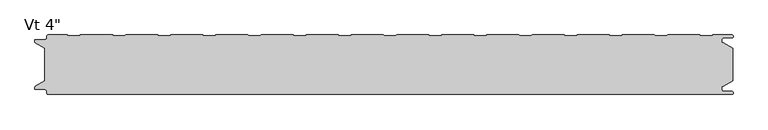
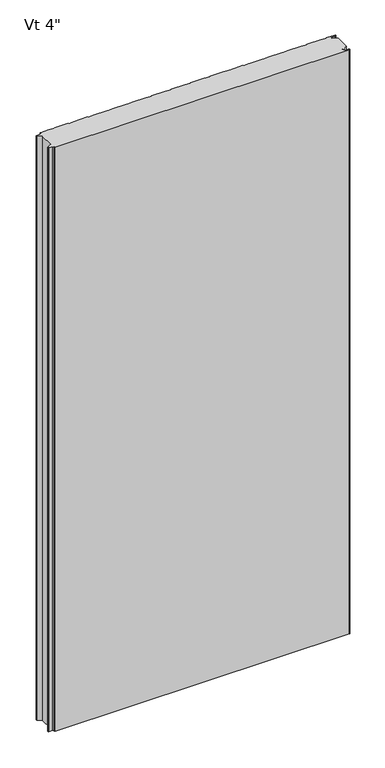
"""IFC4 building model written with IfcOpenShell, lengths in millimetres: plate geometry."""

from ifc_helpers import new_model, si_unit, frame, origin, place, context, project, spatial, polyline, circle_curve, source, transform, mapped, element, save
from ifc_brep_helpers import plane_surface, cylinder_surface, revolved_surface, advanced_brep


def plate_5dd1f924(model_context):
    return source(origin(), model_context, "Body", "AdvancedBrep", [
        advanced_brep(
        [(-572.4125501, -98.6227194, 2400.0), (-570.4352761, -100.5999935, 2400.0), (574.5475652, -100.6, 2400.0), (576.5248337, -98.6227315, 2400.0), (576.5248337, -97.5806329, 2400.0), (574.5475652, -95.6033643, 2400.0), (560.3591802, -95.6033643, 2400.0), (557.7713036, -93.0154878, 2400.0), (557.7713036, -88.6950697, 2400.0), (557.1628365, -88.1060762, 2400.0), (554.7857432, -88.1060762, 2400.0), (554.7857432, -87.1066023, 2400.0), (560.2280123, -87.1066023, 2400.0), (576.2625, -77.8490865, 2400.0), (576.2625, -23.7509179, 2400.0), (560.2280123, -14.4934021, 2400.0), (554.7857432, -14.4934021, 2400.0), (554.7857432, -13.4939282, 2400.0), (557.1628365, -13.4939282, 2400.0), (557.7713036, -12.9049347, 2400.0), (557.7713036, -8.5845165, 2400.0), (560.3591802, -5.99664, 2400.0), (574.5475652, -5.99664, 2400.0), (576.5248337, -4.0193715, 2400.0), (576.5248337, -2.9772729, 2400.0), (574.5475652, -1.0000044, 2400.0), (542.3760351, -1.0000044, 2400.0), (541.3035142, -2.1911595, 2400.0), (521.5205195, -2.1911595, 2400.0), (520.4479947, -1.0, 2400.0), (466.7534187, -1.0, 2400.0), (465.6808939, -2.1911595, 2400.0), (445.8978992, -2.1911595, 2400.0), (444.8253744, -1.0, 2400.0), (391.1307985, -1.0, 2400.0), (390.0582736, -2.1911595, 2400.0), (370.275279, -2.1911595, 2400.0), (369.2027541, -1.0, 2400.0), (315.5081782, -1.0, 2400.0), (314.4356534, -2.1911595, 2400.0), (294.6526587, -2.1911595, 2400.0), (293.5801339, -1.0, 2400.0), (239.885558, -1.0, 2400.0), (238.8130331, -2.1911595, 2400.0), (219.0300384, -2.1911595, 2400.0), (217.9575136, -1.0, 2400.0), (164.2629377, -1.0, 2400.0), (163.1904129, -2.1911595, 2400.0), (143.4074182, -2.1911595, 2400.0), (142.3348933, -1.0, 2400.0), (88.6403174, -1.0, 2400.0), (87.5677926, -2.1911595, 2400.0), (67.7847979, -2.1911595, 2400.0), (66.7122731, -1.0, 2400.0), (13.0176972, -1.0, 2400.0), (11.9451723, -2.1911595, 2400.0), (-7.8378224, -2.1911595, 2400.0), (-8.9103472, -1.0, 2400.0), (-62.6049231, -1.0, 2400.0), (-63.6774479, -2.1911595, 2400.0), (-83.4604426, -2.1911595, 2400.0), (-84.5329675, -1.0, 2400.0), (-138.2275434, -1.0, 2400.0), (-139.3000682, -2.1911595, 2400.0), (-159.0830629, -2.1911595, 2400.0), (-160.1555877, -1.0, 2400.0), (-213.8501636, -1.0, 2400.0), (-214.9226885, -2.1911595, 2400.0), (-234.7056831, -2.1911595, 2400.0), (-235.778208, -1.0, 2400.0), (-289.4727839, -1.0, 2400.0), (-290.5453087, -2.1911595, 2400.0), (-310.3283034, -2.1911595, 2400.0), (-311.4008282, -1.0, 2400.0), (-365.0954042, -1.0, 2400.0), (-366.167929, -2.1911595, 2400.0), (-385.9509237, -2.1911595, 2400.0), (-387.0234485, -1.0, 2400.0), (-440.7180244, -1.0, 2400.0), (-441.7905493, -2.1911595, 2400.0), (-461.5735439, -2.1911595, 2400.0), (-462.6460688, -1.0, 2400.0), (-516.3406447, -1.0, 2400.0), (-517.4131695, -2.1911595, 2400.0), (-537.1961642, -2.1911595, 2400.0), (-538.268689, -1.0000109, 2400.0), (-570.4352761, -1.0000109, 2400.0), (-572.4125501, -2.9772849, 2400.0), (-572.4125501, -5.2691749, 2400.0), (-576.3898173, -9.246442, 2400.0), (-591.9862417, -9.246442, 2400.0), (-592.5741186, -9.8343189, 2400.0), (-592.5741186, -12.9058679, 2400.0), (-591.986242, -13.4937446, 2400.0), (-589.6312064, -13.4937446, 2400.0), (-589.6312064, -14.4937446, 2400.0), (-591.9207851, -14.4937446, 2400.0), (-576.2625, -23.7509179, 2400.0), (-576.2625, -77.8490865, 2400.0), (-591.9207851, -87.1062598, 2400.0), (-589.6312064, -87.1062598, 2400.0), (-589.6312064, -88.1062598, 2400.0), (-591.986242, -88.1062598, 2400.0), (-592.5741186, -88.6941365, 2400.0), (-592.5741186, -91.7656854, 2400.0), (-591.9862417, -92.3535623, 2400.0), (-576.3898173, -92.3535623, 2400.0), (-572.4125501, -96.3308295, 2400.0), (-572.4125501, -98.6227194, 0.0), (-572.4125501, -96.3308295, 0.0), (-576.3898173, -92.3535623, 0.0), (-591.9862417, -92.3535623, 0.0), (-592.5741186, -91.7656854, 0.0), (-592.5741186, -88.6941365, 0.0), (-591.986242, -88.1062598, 0.0), (-589.6312064, -88.1062598, 0.0), (-589.6312064, -87.1062598, 0.0), (-591.9207851, -87.1062598, 0.0), (-576.2625, -77.8490865, 0.0), (-576.2625, -23.7509179, 0.0), (-591.9207851, -14.4937446, 0.0), (-589.6312064, -14.4937446, 0.0), (-589.6312064, -13.4937446, 0.0), (-591.986242, -13.4937446, 0.0), (-592.5741186, -12.9058679, 0.0), (-592.5741186, -9.8343189, 0.0), (-591.9862417, -9.246442, 0.0), (-576.3898173, -9.246442, 0.0), (-572.4125501, -5.2691749, 0.0), (-572.4125501, -2.9772849, 0.0), (-570.4352761, -1.0000109, 0.0), (-538.268689, -1.0000109, 0.0), (-537.1961642, -2.1911595, 0.0), (-517.4131695, -2.1911595, 0.0), (-516.3406447, -1.0, 0.0), (-462.6460688, -1.0, 0.0), (-461.5735439, -2.1911595, 0.0), (-441.7905493, -2.1911595, 0.0), (-440.7180244, -1.0, 0.0), (-387.0234485, -1.0, 0.0), (-385.9509237, -2.1911595, 0.0), (-366.167929, -2.1911595, 0.0), (-365.0954042, -1.0, 0.0), (-311.4008282, -1.0, 0.0), (-310.3283034, -2.1911595, 0.0), (-290.5453087, -2.1911595, 0.0), (-289.4727839, -1.0, 0.0), (-235.778208, -1.0, 0.0), (-234.7056831, -2.1911595, 0.0), (-214.9226885, -2.1911595, 0.0), (-213.8501636, -1.0, 0.0), (-160.1555877, -1.0, 0.0), (-159.0830629, -2.1911595, 0.0), (-139.3000682, -2.1911595, 0.0), (-138.2275434, -1.0, 0.0), (-84.5329675, -1.0, 0.0), (-83.4604426, -2.1911595, 0.0), (-63.6774479, -2.1911595, 0.0), (-62.6049231, -1.0, 0.0), (-8.9103472, -1.0, 0.0), (-7.8378224, -2.1911595, 0.0), (11.9451723, -2.1911595, 0.0), (13.0176972, -1.0, 0.0), (66.7122731, -1.0, 0.0), (67.7847979, -2.1911595, 0.0), (87.5677926, -2.1911595, 0.0), (88.6403174, -1.0, 0.0), (142.3348933, -1.0, 0.0), (143.4074182, -2.1911595, 0.0), (163.1904129, -2.1911595, 0.0), (164.2629377, -1.0, 0.0), (217.9575136, -1.0, 0.0), (219.0300384, -2.1911595, 0.0), (238.8130331, -2.1911595, 0.0), (239.885558, -1.0, 0.0), (293.5801339, -1.0, 0.0), (294.6526587, -2.1911595, 0.0), (314.4356534, -2.1911595, 0.0), (315.5081782, -1.0, 0.0), (369.2027541, -1.0, 0.0), (370.275279, -2.1911595, 0.0), (390.0582736, -2.1911595, 0.0), (391.1307985, -1.0, 0.0), (444.8253744, -1.0, 0.0), (445.8978992, -2.1911595, 0.0), (465.6808939, -2.1911595, 0.0), (466.7534187, -1.0, 0.0), (520.4479947, -1.0, 0.0), (521.5205195, -2.1911595, 0.0), (541.3035142, -2.1911595, 0.0), (542.3760351, -1.0000044, 0.0), (574.5475652, -1.0000044, 0.0), (576.5248337, -2.9772729, 0.0), (576.5248337, -4.0193715, 0.0), (574.5475652, -5.99664, 0.0), (560.3591802, -5.99664, 0.0), (557.7713036, -8.5845165, 0.0), (557.7713036, -12.9049347, 0.0), (557.1628365, -13.4939282, 0.0), (554.7857432, -13.4939282, 0.0), (554.7857432, -14.4934021, 0.0), (560.2280123, -14.4934021, 0.0), (576.2625, -23.7509179, 0.0), (576.2625, -77.8490865, 0.0), (560.2280123, -87.1066023, 0.0), (554.7857432, -87.1066023, 0.0), (554.7857432, -88.1060762, 0.0), (557.1628365, -88.1060762, 0.0), (557.7713036, -88.6950697, 0.0), (557.7713036, -93.0154878, 0.0), (560.3591802, -95.6033643, 0.0), (574.5475652, -95.6033643, 0.0), (576.5248337, -97.5806329, 0.0), (576.5248337, -98.6227315, 0.0), (574.5475652, -100.6, 0.0), (-570.4352761, -100.6, 0.0)],
        [
            (0, 1, circle_curve(frame((-570.4352761, -98.6227194, 2400.0), z_axis=(0.0, 0.0, 1.0), x_axis=(-1.0, 0.0, 0.0)), 1.977274)),
            (1, 2),
            (2, 3, circle_curve(frame((574.5475652, -98.6227315, 2400.0), z_axis=(0.0, 0.0, 1.0), x_axis=(-1.0, 0.0, 0.0)), 1.9772685)),
            (3, 4),
            (4, 5, circle_curve(frame((574.5475652, -97.5806329, 2400.0), z_axis=(0.0, 0.0, 1.0), x_axis=(-1.0, 0.0, 0.0)), 1.9772685)),
            (5, 6),
            (6, 7, circle_curve(frame((560.3591802, -93.0154878, 2400.0), z_axis=(0.0, 0.0, -1.0), x_axis=(-1.0, 0.0, 0.0)), 2.5878765)),
            (7, 8),
            (8, 9, circle_curve(frame((557.1819985, -88.6950697, 2400.0), z_axis=(0.0, 0.0, 1.0), x_axis=(-1.0, 0.0, 0.0)), 0.5893051)),
            (9, 10),
            (10, 11),
            (11, 12),
            (12, 13),
            (13, 14),
            (14, 15),
            (15, 16),
            (16, 17),
            (17, 18),
            (18, 19, circle_curve(frame((557.1819985, -12.9049347, 2400.0), z_axis=(0.0, 0.0, 1.0), x_axis=(0.0, 1.0, 0.0)), 0.5893051)),
            (19, 20),
            (20, 21, circle_curve(frame((560.3591802, -8.5845165, 2400.0), z_axis=(0.0, 0.0, -1.0), x_axis=(0.0, 1.0, 0.0)), 2.5878765)),
            (21, 22),
            (22, 23, circle_curve(frame((574.5475652, -4.0193715, 2400.0), z_axis=(0.0, 0.0, 1.0), x_axis=(0.0, 1.0, 0.0)), 1.9772685)),
            (23, 24),
            (24, 25, circle_curve(frame((574.5475652, -2.9772729, 2400.0), z_axis=(0.0, 0.0, 1.0), x_axis=(0.0, 1.0, 0.0)), 1.9772685)),
            (25, 26),
            (26, 27),
            (27, 28),
            (28, 29),
            (29, 30),
            (30, 31),
            (31, 32),
            (32, 33),
            (33, 34),
            (34, 35),
            (35, 36),
            (36, 37),
            (37, 38),
            (38, 39),
            (39, 40),
            (40, 41),
            (41, 42),
            (42, 43),
            (43, 44),
            (44, 45),
            (45, 46),
            (46, 47),
            (47, 48),
            (48, 49),
            (49, 50),
            (50, 51),
            (51, 52),
            (52, 53),
            (53, 54),
            (54, 55),
            (55, 56),
            (56, 57),
            (57, 58),
            (58, 59),
            (59, 60),
            (60, 61),
            (61, 62),
            (62, 63),
            (63, 64),
            (64, 65),
            (65, 66),
            (66, 67),
            (67, 68),
            (68, 69),
            (69, 70),
            (70, 71),
            (71, 72),
            (72, 73),
            (73, 74),
            (74, 75),
            (75, 76),
            (76, 77),
            (77, 78),
            (78, 79),
            (79, 80),
            (80, 81),
            (81, 82),
            (82, 83),
            (83, 84),
            (84, 85),
            (85, 86),
            (86, 87, circle_curve(frame((-570.4352761, -2.9772849, 2400.0), z_axis=(0.0, 0.0, 1.0), x_axis=(0.0, 1.0, 0.0)), 1.977274)),
            (87, 88),
            (88, 89, circle_curve(frame((-576.3898173, -5.2691749, 2400.0), z_axis=(0.0, 0.0, -1.0), x_axis=(0.0, 1.0, 0.0)), 3.9772671)),
            (89, 90),
            (90, 91, circle_curve(frame((-591.9862417, -9.8343189, 2400.0), z_axis=(0.0, 0.0, 1.0), x_axis=(0.0, 1.0, 0.0)), 0.5878769)),
            (91, 92),
            (92, 93, circle_curve(frame((-591.986242, -12.9058679, 2400.0), z_axis=(0.0, 0.0, 1.0), x_axis=(0.0, 1.0, 0.0)), 0.5878766)),
            (93, 94),
            (94, 95),
            (95, 96),
            (96, 97),
            (97, 98),
            (98, 99),
            (99, 100),
            (100, 101),
            (101, 102),
            (102, 103, circle_curve(frame((-591.986242, -88.6941365, 2400.0), z_axis=(0.0, 0.0, 1.0), x_axis=(-1.0, 0.0, 0.0)), 0.5878766)),
            (103, 104),
            (104, 105, circle_curve(frame((-591.9862417, -91.7656854, 2400.0), z_axis=(0.0, 0.0, 1.0), x_axis=(-1.0, 0.0, 0.0)), 0.5878769)),
            (105, 106),
            (106, 107, circle_curve(frame((-576.3898173, -96.3308295, 2400.0), z_axis=(0.0, 0.0, -1.0), x_axis=(-1.0, 0.0, 0.0)), 3.9772671)),
            (107, 0),
            (108, 109),
            (109, 110, circle_curve(frame((-576.3898173, -96.3308295, 0.0), z_axis=(0.0, 0.0, 1.0), x_axis=(-1.0, 0.0, 0.0)), 3.9772671)),
            (110, 111),
            (111, 112, circle_curve(frame((-591.9862417, -91.7656854, 0.0), z_axis=(0.0, 0.0, -1.0), x_axis=(-1.0, 0.0, 0.0)), 0.5878769)),
            (112, 113),
            (113, 114, circle_curve(frame((-591.986242, -88.6941365, 0.0), z_axis=(0.0, 0.0, -1.0), x_axis=(-1.0, 0.0, 0.0)), 0.5878766)),
            (114, 115),
            (115, 116),
            (116, 117),
            (117, 118),
            (118, 119),
            (119, 120),
            (120, 121),
            (121, 122),
            (122, 123),
            (123, 124, circle_curve(frame((-591.986242, -12.9058679, 0.0), z_axis=(0.0, 0.0, -1.0), x_axis=(0.0, 1.0, 0.0)), 0.5878766)),
            (124, 125),
            (125, 126, circle_curve(frame((-591.9862417, -9.8343189, 0.0), z_axis=(0.0, 0.0, -1.0), x_axis=(0.0, 1.0, 0.0)), 0.5878769)),
            (126, 127),
            (127, 128, circle_curve(frame((-576.3898173, -5.2691749, 0.0), z_axis=(0.0, 0.0, 1.0), x_axis=(0.0, 1.0, 0.0)), 3.9772671)),
            (128, 129),
            (129, 130, circle_curve(frame((-570.4352761, -2.9772849, 0.0), z_axis=(0.0, 0.0, -1.0), x_axis=(0.0, 1.0, 0.0)), 1.977274)),
            (130, 131),
            (131, 132),
            (132, 133),
            (133, 134),
            (134, 135),
            (135, 136),
            (136, 137),
            (137, 138),
            (138, 139),
            (139, 140),
            (140, 141),
            (141, 142),
            (142, 143),
            (143, 144),
            (144, 145),
            (145, 146),
            (146, 147),
            (147, 148),
            (148, 149),
            (149, 150),
            (150, 151),
            (151, 152),
            (152, 153),
            (153, 154),
            (154, 155),
            (155, 156),
            (156, 157),
            (157, 158),
            (158, 159),
            (159, 160),
            (160, 161),
            (161, 162),
            (162, 163),
            (163, 164),
            (164, 165),
            (165, 166),
            (166, 167),
            (167, 168),
            (168, 169),
            (169, 170),
            (170, 171),
            (171, 172),
            (172, 173),
            (173, 174),
            (174, 175),
            (175, 176),
            (176, 177),
            (177, 178),
            (178, 179),
            (179, 180),
            (180, 181),
            (181, 182),
            (182, 183),
            (183, 184),
            (184, 185),
            (185, 186),
            (186, 187),
            (187, 188),
            (188, 189),
            (189, 190),
            (190, 191),
            (191, 192, circle_curve(frame((574.5475652, -2.9772729, 0.0), z_axis=(0.0, 0.0, -1.0), x_axis=(0.0, 1.0, 0.0)), 1.9772685)),
            (192, 193),
            (193, 194, circle_curve(frame((574.5475652, -4.0193715, 0.0), z_axis=(0.0, 0.0, -1.0), x_axis=(0.0, 1.0, 0.0)), 1.9772685)),
            (194, 195),
            (195, 196, circle_curve(frame((560.3591802, -8.5845165, 0.0), z_axis=(0.0, 0.0, 1.0), x_axis=(0.0, 1.0, 0.0)), 2.5878765)),
            (196, 197),
            (197, 198, circle_curve(frame((557.1819985, -12.9049347, 0.0), z_axis=(0.0, 0.0, -1.0), x_axis=(0.0, 1.0, 0.0)), 0.5893051)),
            (198, 199),
            (199, 200),
            (200, 201),
            (201, 202),
            (202, 203),
            (203, 204),
            (204, 205),
            (205, 206),
            (206, 207),
            (207, 208, circle_curve(frame((557.1819985, -88.6950697, 0.0), z_axis=(0.0, 0.0, -1.0), x_axis=(-1.0, 0.0, 0.0)), 0.5893051)),
            (208, 209),
            (209, 210, circle_curve(frame((560.3591802, -93.0154878, 0.0), z_axis=(0.0, 0.0, 1.0), x_axis=(-1.0, 0.0, 0.0)), 2.5878765)),
            (210, 211),
            (211, 212, circle_curve(frame((574.5475652, -97.5806329, 0.0), z_axis=(0.0, 0.0, -1.0), x_axis=(-1.0, 0.0, 0.0)), 1.9772685)),
            (212, 213),
            (213, 214, circle_curve(frame((574.5475652, -98.6227315, 0.0), z_axis=(0.0, 0.0, -1.0), x_axis=(-1.0, 0.0, 0.0)), 1.9772685)),
            (214, 215),
            (215, 108, circle_curve(frame((-570.4352761, -98.6227194, 0.0), z_axis=(0.0, 0.0, -1.0), x_axis=(-1.0, 0.0, 0.0)), 1.977274)),
            (97, 119),
            (118, 98),
            (13, 203),
            (202, 14),
            (27, 189),
            (188, 28),
            (26, 190),
            (25, 191),
            (24, 192),
            (23, 193),
            (22, 194),
            (21, 195),
            (20, 196),
            (19, 197),
            (18, 198),
            (17, 199),
            (16, 200),
            (15, 201),
            (96, 120),
            (95, 121),
            (94, 122),
            (93, 123),
            (92, 124),
            (91, 125),
            (90, 126),
            (89, 127),
            (88, 128),
            (87, 129),
            (86, 130),
            (85, 131),
            (84, 132),
            (83, 133),
            (82, 134),
            (81, 135),
            (80, 136),
            (79, 137),
            (78, 138),
            (77, 139),
            (76, 140),
            (75, 141),
            (74, 142),
            (73, 143),
            (72, 144),
            (71, 145),
            (70, 146),
            (69, 147),
            (68, 148),
            (67, 149),
            (66, 150),
            (65, 151),
            (64, 152),
            (63, 153),
            (62, 154),
            (61, 155),
            (60, 156),
            (59, 157),
            (58, 158),
            (57, 159),
            (56, 160),
            (55, 161),
            (54, 162),
            (53, 163),
            (52, 164),
            (51, 165),
            (50, 166),
            (49, 167),
            (48, 168),
            (47, 169),
            (46, 170),
            (45, 171),
            (44, 172),
            (43, 173),
            (42, 174),
            (41, 175),
            (40, 176),
            (39, 177),
            (38, 178),
            (37, 179),
            (36, 180),
            (35, 181),
            (34, 182),
            (33, 183),
            (32, 184),
            (31, 185),
            (30, 186),
            (29, 187),
            (107, 109),
            (108, 0),
            (106, 110),
            (105, 111),
            (104, 112),
            (103, 113),
            (102, 114),
            (101, 115),
            (100, 116),
            (99, 117),
            (12, 204),
            (11, 205),
            (10, 206),
            (9, 207),
            (8, 208),
            (7, 209),
            (6, 210),
            (5, 211),
            (4, 212),
            (3, 213),
            (2, 214),
            (1, 215),
        ],
        [
            plane_surface(frame((0.0, -100.6, 2400.0), z_axis=(0.0, 0.0, 1.0), x_axis=(0.0, -1.0, 0.0))),
            plane_surface(frame((0.0, -100.6, 0.0), z_axis=(0.0, 0.0, -1.0), x_axis=(0.0, -1.0, 0.0))),
            plane_surface(frame((-576.2625, -77.8490865, 2400.0), z_axis=(-1.0, 0.0, 0.0), x_axis=(0.0, 0.0, -1.0))),
            plane_surface(frame((576.2625, -23.7509179, 2400.0), z_axis=(1.0, 0.0, 0.0), x_axis=(0.0, 0.0, -1.0))),
            plane_surface(frame((521.5205195, -2.1911595, 2400.0), z_axis=(0.0, 1.0, 0.0), x_axis=(0.0, 0.0, -1.0))),
            plane_surface(frame((541.3035142, -2.1911595, 2400.0), z_axis=(-0.7431448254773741, 0.6691306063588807, 0.0), x_axis=(0.0, 0.0, -1.0))),
            plane_surface(frame((542.3760351, -1.0000044, 2400.0), z_axis=(0.0, 1.0, 0.0), x_axis=(0.0, 0.0, -1.0))),
            cylinder_surface(frame((574.5475652, -2.9772729, 2400.0), z_axis=(0.0, 0.0, 1.0), x_axis=(0.0, 1.0, 0.0)), 1.9772685),
            plane_surface(frame((576.5248337, -2.9772729, 2400.0), z_axis=(1.0, 0.0, 0.0), x_axis=(0.0, 0.0, -1.0))),
            cylinder_surface(frame((574.5475652, -4.0193715, 2400.0), z_axis=(0.0, 0.0, 1.0), x_axis=(0.0, 1.0, 0.0)), 1.9772685),
            plane_surface(frame((574.5475652, -5.99664, 2400.0), z_axis=(0.0, -1.0, 0.0), x_axis=(0.0, 0.0, -1.0))),
            revolved_surface(polyline([(560.3591802, -5.996639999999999, 0.0), (560.3591802, -5.996639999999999, 2400.0)]), (560.3591802, -8.5845165, 2400.0), (0.0, 0.0, -1.0)),
            plane_surface(frame((557.7713036, -8.5845165, 2400.0), z_axis=(1.0, 0.0, 0.0), x_axis=(0.0, 0.0, -1.0))),
            cylinder_surface(frame((557.1819985, -12.9049347, 2400.0), z_axis=(0.0, 0.0, 1.0), x_axis=(0.0, 1.0, 0.0)), 0.5893051),
            plane_surface(frame((557.1628365, -13.4939282, 2400.0), z_axis=(0.0, -1.0, 0.0), x_axis=(0.0, 0.0, -1.0))),
            plane_surface(frame((554.7857432, -13.4939282, 2400.0), z_axis=(1.0, 0.0, 0.0), x_axis=(0.0, 0.0, -1.0))),
            plane_surface(frame((554.7857432, -14.4934021, 2400.0), z_axis=(0.0, 1.0, 0.0), x_axis=(0.0, 0.0, -1.0))),
            plane_surface(frame((560.2280123, -14.4934021, 2400.0), z_axis=(0.5000000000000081, 0.866025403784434, 0.0), x_axis=(0.0, 0.0, -1.0))),
            plane_surface(frame((-576.2625, -23.7509179, 2400.0), z_axis=(-0.5089147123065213, -0.860816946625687, 0.0), x_axis=(0.0, 0.0, -1.0))),
            plane_surface(frame((-591.9207851, -14.4937446, 2400.0), z_axis=(0.0, 1.0, 0.0), x_axis=(0.0, 0.0, -1.0))),
            plane_surface(frame((-589.6312064, -14.4937446, 2400.0), z_axis=(-1.0, 0.0, 0.0), x_axis=(0.0, 0.0, -1.0))),
            plane_surface(frame((-589.6312064, -13.4937446, 2400.0), z_axis=(0.0, -1.0, 0.0), x_axis=(0.0, 0.0, -1.0))),
            cylinder_surface(frame((-591.986242, -12.9058679, 2400.0), z_axis=(0.0, 0.0, 1.0), x_axis=(0.0, 1.0, 0.0)), 0.5878766),
            plane_surface(frame((-592.5741186, -12.9058679, 2400.0), z_axis=(-1.0, 0.0, 0.0), x_axis=(0.0, 0.0, -1.0))),
            cylinder_surface(frame((-591.9862417, -9.8343189, 2400.0), z_axis=(0.0, 0.0, 1.0), x_axis=(0.0, 1.0, 0.0)), 0.5878769),
            plane_surface(frame((-591.9862417, -9.246442, 2400.0), z_axis=(0.0, 1.0, 0.0), x_axis=(0.0, 0.0, -1.0))),
            revolved_surface(polyline([(-576.3898173, -1.2919078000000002, 0.0), (-576.3898173, -1.2919078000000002, 2400.0)]), (-576.3898173, -5.2691749, 2400.0), (0.0, 0.0, -1.0)),
            plane_surface(frame((-572.4125501, -5.2691749, 2400.0), z_axis=(-1.0, 0.0, 0.0), x_axis=(0.0, 0.0, -1.0))),
            cylinder_surface(frame((-570.4352761, -2.9772849, 2400.0), z_axis=(0.0, 0.0, 1.0), x_axis=(0.0, 1.0, 0.0)), 1.977274),
            plane_surface(frame((-570.4352761, -1.0000109, 2400.0), z_axis=(0.0, 1.0, 0.0), x_axis=(0.0, 0.0, -1.0))),
            plane_surface(frame((-538.268689, -1.0000109, 2400.0), z_axis=(0.7431417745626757, 0.669133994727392, 0.0), x_axis=(0.0, 0.0, -1.0))),
            plane_surface(frame((-537.1961642, -2.1911595, 2400.0), z_axis=(0.0, 1.0, 0.0), x_axis=(0.0, 0.0, -1.0))),
            plane_surface(frame((-517.4131695, -2.1911595, 2400.0), z_axis=(-0.7431448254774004, 0.6691306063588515, 0.0), x_axis=(0.0, 0.0, -1.0))),
            plane_surface(frame((-516.3406447, -1.0, 2400.0), z_axis=(0.0, 1.0, 0.0), x_axis=(0.0, 0.0, -1.0))),
            plane_surface(frame((-462.6460688, -1.0, 2400.0), z_axis=(0.7431448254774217, 0.6691306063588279, 0.0), x_axis=(0.0, 0.0, -1.0))),
            plane_surface(frame((-461.5735439, -2.1911595, 2400.0), z_axis=(0.0, 1.0, 0.0), x_axis=(0.0, 0.0, -1.0))),
            plane_surface(frame((-441.7905493, -2.1911595, 2400.0), z_axis=(-0.7431448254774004, 0.6691306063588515, 0.0), x_axis=(0.0, 0.0, -1.0))),
            plane_surface(frame((-440.7180244, -1.0, 2400.0), z_axis=(0.0, 1.0, 0.0), x_axis=(0.0, 0.0, -1.0))),
            plane_surface(frame((-387.0234485, -1.0, 2400.0), z_axis=(0.7431448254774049, 0.6691306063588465, 0.0), x_axis=(0.0, 0.0, -1.0))),
            plane_surface(frame((-385.9509237, -2.1911595, 2400.0), z_axis=(0.0, 1.0, 0.0), x_axis=(0.0, 0.0, -1.0))),
            plane_surface(frame((-366.167929, -2.1911595, 2400.0), z_axis=(-0.7431448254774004, 0.6691306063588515, 0.0), x_axis=(0.0, 0.0, -1.0))),
            plane_surface(frame((-365.0954042, -1.0, 2400.0), z_axis=(0.0, 1.0, 0.0), x_axis=(0.0, 0.0, -1.0))),
            plane_surface(frame((-311.4008282, -1.0, 2400.0), z_axis=(0.7431448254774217, 0.6691306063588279, 0.0), x_axis=(0.0, 0.0, -1.0))),
            plane_surface(frame((-310.3283034, -2.1911595, 2400.0), z_axis=(0.0, 1.0, 0.0), x_axis=(0.0, 0.0, -1.0))),
            plane_surface(frame((-290.5453087, -2.1911595, 2400.0), z_axis=(-0.7431448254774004, 0.6691306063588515, 0.0), x_axis=(0.0, 0.0, -1.0))),
            plane_surface(frame((-289.4727839, -1.0, 2400.0), z_axis=(0.0, 1.0, 0.0), x_axis=(0.0, 0.0, -1.0))),
            plane_surface(frame((-235.778208, -1.0, 2400.0), z_axis=(0.7431448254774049, 0.6691306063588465, 0.0), x_axis=(0.0, 0.0, -1.0))),
            plane_surface(frame((-234.7056831, -2.1911595, 2400.0), z_axis=(0.0, 1.0, 0.0), x_axis=(0.0, 0.0, -1.0))),
            plane_surface(frame((-214.9226885, -2.1911595, 2400.0), z_axis=(-0.7431448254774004, 0.6691306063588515, 0.0), x_axis=(0.0, 0.0, -1.0))),
            plane_surface(frame((-213.8501636, -1.0, 2400.0), z_axis=(0.0, 1.0, 0.0), x_axis=(0.0, 0.0, -1.0))),
            plane_surface(frame((-160.1555877, -1.0, 2400.0), z_axis=(0.7431448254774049, 0.6691306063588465, 0.0), x_axis=(0.0, 0.0, -1.0))),
            plane_surface(frame((-159.0830629, -2.1911595, 2400.0), z_axis=(0.0, 1.0, 0.0), x_axis=(0.0, 0.0, -1.0))),
            plane_surface(frame((-139.3000682, -2.1911595, 2400.0), z_axis=(-0.7431448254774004, 0.6691306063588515, 0.0), x_axis=(0.0, 0.0, -1.0))),
            plane_surface(frame((-138.2275434, -1.0, 2400.0), z_axis=(0.0, 1.0, 0.0), x_axis=(0.0, 0.0, -1.0))),
            plane_surface(frame((-84.5329675, -1.0, 2400.0), z_axis=(0.7431448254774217, 0.6691306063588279, 0.0), x_axis=(0.0, 0.0, -1.0))),
            plane_surface(frame((-83.4604426, -2.1911595, 2400.0), z_axis=(0.0, 1.0, 0.0), x_axis=(0.0, 0.0, -1.0))),
            plane_surface(frame((-63.6774479, -2.1911595, 2400.0), z_axis=(-0.7431448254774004, 0.6691306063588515, 0.0), x_axis=(0.0, 0.0, -1.0))),
            plane_surface(frame((-62.6049231, -1.0, 2400.0), z_axis=(0.0, 1.0, 0.0), x_axis=(0.0, 0.0, -1.0))),
            plane_surface(frame((-8.9103472, -1.0, 2400.0), z_axis=(0.7431448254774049, 0.6691306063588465, 0.0), x_axis=(0.0, 0.0, -1.0))),
            plane_surface(frame((-7.8378224, -2.1911595, 2400.0), z_axis=(0.0, 1.0, 0.0), x_axis=(0.0, 0.0, -1.0))),
            plane_surface(frame((11.9451723, -2.1911595, 2400.0), z_axis=(-0.7431448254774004, 0.6691306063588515, 0.0), x_axis=(0.0, 0.0, -1.0))),
            plane_surface(frame((13.0176972, -1.0, 2400.0), z_axis=(0.0, 1.0, 0.0), x_axis=(0.0, 0.0, -1.0))),
            plane_surface(frame((66.7122731, -1.0, 2400.0), z_axis=(0.7431448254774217, 0.6691306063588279, 0.0), x_axis=(0.0, 0.0, -1.0))),
            plane_surface(frame((67.7847979, -2.1911595, 2400.0), z_axis=(0.0, 1.0, 0.0), x_axis=(0.0, 0.0, -1.0))),
            plane_surface(frame((87.5677926, -2.1911595, 2400.0), z_axis=(-0.7431448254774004, 0.6691306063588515, 0.0), x_axis=(0.0, 0.0, -1.0))),
            plane_surface(frame((88.6403174, -1.0, 2400.0), z_axis=(0.0, 1.0, 0.0), x_axis=(0.0, 0.0, -1.0))),
            plane_surface(frame((142.3348933, -1.0, 2400.0), z_axis=(0.7431448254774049, 0.6691306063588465, 0.0), x_axis=(0.0, 0.0, -1.0))),
            plane_surface(frame((143.4074182, -2.1911595, 2400.0), z_axis=(0.0, 1.0, 0.0), x_axis=(0.0, 0.0, -1.0))),
            plane_surface(frame((163.1904129, -2.1911595, 2400.0), z_axis=(-0.7431448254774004, 0.6691306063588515, 0.0), x_axis=(0.0, 0.0, -1.0))),
            plane_surface(frame((164.2629377, -1.0, 2400.0), z_axis=(0.0, 1.0, 0.0), x_axis=(0.0, 0.0, -1.0))),
            plane_surface(frame((217.9575136, -1.0, 2400.0), z_axis=(0.7431448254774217, 0.6691306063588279, 0.0), x_axis=(0.0, 0.0, -1.0))),
            plane_surface(frame((219.0300384, -2.1911595, 2400.0), z_axis=(0.0, 1.0, 0.0), x_axis=(0.0, 0.0, -1.0))),
            plane_surface(frame((238.8130331, -2.1911595, 2400.0), z_axis=(-0.7431448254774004, 0.6691306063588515, 0.0), x_axis=(0.0, 0.0, -1.0))),
            plane_surface(frame((239.885558, -1.0, 2400.0), z_axis=(0.0, 1.0, 0.0), x_axis=(0.0, 0.0, -1.0))),
            plane_surface(frame((293.5801339, -1.0, 2400.0), z_axis=(0.7431448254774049, 0.6691306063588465, 0.0), x_axis=(0.0, 0.0, -1.0))),
            plane_surface(frame((294.6526587, -2.1911595, 2400.0), z_axis=(0.0, 1.0, 0.0), x_axis=(0.0, 0.0, -1.0))),
            plane_surface(frame((314.4356534, -2.1911595, 2400.0), z_axis=(-0.7431448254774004, 0.6691306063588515, 0.0), x_axis=(0.0, 0.0, -1.0))),
            plane_surface(frame((315.5081782, -1.0, 2400.0), z_axis=(0.0, 1.0, 0.0), x_axis=(0.0, 0.0, -1.0))),
            plane_surface(frame((369.2027541, -1.0, 2400.0), z_axis=(0.7431448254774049, 0.6691306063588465, 0.0), x_axis=(0.0, 0.0, -1.0))),
            plane_surface(frame((370.275279, -2.1911595, 2400.0), z_axis=(0.0, 1.0, 0.0), x_axis=(0.0, 0.0, -1.0))),
            plane_surface(frame((390.0582736, -2.1911595, 2400.0), z_axis=(-0.7431448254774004, 0.6691306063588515, 0.0), x_axis=(0.0, 0.0, -1.0))),
            plane_surface(frame((391.1307985, -1.0, 2400.0), z_axis=(0.0, 1.0, 0.0), x_axis=(0.0, 0.0, -1.0))),
            plane_surface(frame((444.8253744, -1.0, 2400.0), z_axis=(0.7431448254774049, 0.6691306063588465, 0.0), x_axis=(0.0, 0.0, -1.0))),
            plane_surface(frame((445.8978992, -2.1911595, 2400.0), z_axis=(0.0, 1.0, 0.0), x_axis=(0.0, 0.0, -1.0))),
            plane_surface(frame((465.6808939, -2.1911595, 2400.0), z_axis=(-0.7431448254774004, 0.6691306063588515, 0.0), x_axis=(0.0, 0.0, -1.0))),
            plane_surface(frame((466.7534187, -1.0, 2400.0), z_axis=(0.0, 1.0, 0.0), x_axis=(0.0, 0.0, -1.0))),
            plane_surface(frame((520.4479947, -1.0, 2400.0), z_axis=(0.7431448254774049, 0.6691306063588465, 0.0), x_axis=(0.0, 0.0, -1.0))),
            plane_surface(frame((-572.4125501, -98.6227194, 2400.0), z_axis=(-1.0, 0.0, 0.0), x_axis=(0.0, 0.0, -1.0))),
            revolved_surface(polyline([(-580.3670844, -96.3308295, 0.0), (-580.3670844, -96.3308295, 2400.0)]), (-576.3898173, -96.3308295, 2400.0), (0.0, 0.0, -1.0)),
            plane_surface(frame((-576.3898173, -92.3535623, 2400.0), z_axis=(0.0, -1.0, 0.0), x_axis=(0.0, 0.0, -1.0))),
            cylinder_surface(frame((-591.9862417, -91.7656854, 2400.0), z_axis=(0.0, 0.0, 1.0), x_axis=(-1.0, 0.0, 0.0)), 0.5878769),
            plane_surface(frame((-592.5741186, -91.7656854, 2400.0), z_axis=(-1.0, 0.0, 0.0), x_axis=(0.0, 0.0, -1.0))),
            cylinder_surface(frame((-591.986242, -88.6941365, 2400.0), z_axis=(0.0, 0.0, 1.0), x_axis=(-1.0, 0.0, 0.0)), 0.5878766),
            plane_surface(frame((-591.986242, -88.1062598, 2400.0), z_axis=(0.0, 1.0, 0.0), x_axis=(0.0, 0.0, -1.0))),
            plane_surface(frame((-589.6312064, -88.1062598, 2400.0), z_axis=(-1.0, 0.0, 0.0), x_axis=(0.0, 0.0, -1.0))),
            plane_surface(frame((-589.6312064, -87.1062598, 2400.0), z_axis=(0.0, -1.0, 0.0), x_axis=(0.0, 0.0, -1.0))),
            plane_surface(frame((-591.9207851, -87.1062598, 2400.0), z_axis=(-0.5089147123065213, 0.860816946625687, 0.0), x_axis=(0.0, 0.0, -1.0))),
            plane_surface(frame((576.2625, -77.8490865, 2400.0), z_axis=(0.500000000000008, -0.866025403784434, 0.0), x_axis=(0.0, 0.0, -1.0))),
            plane_surface(frame((560.2280123, -87.1066023, 2400.0), z_axis=(0.0, -1.0, 0.0), x_axis=(0.0, 0.0, -1.0))),
            plane_surface(frame((554.7857432, -87.1066023, 2400.0), z_axis=(1.0, 0.0, 0.0), x_axis=(0.0, 0.0, -1.0))),
            plane_surface(frame((554.7857432, -88.1060762, 2400.0), z_axis=(0.0, 1.0, 0.0), x_axis=(0.0, 0.0, -1.0))),
            cylinder_surface(frame((557.1819985, -88.6950697, 2400.0), z_axis=(0.0, 0.0, 1.0), x_axis=(-1.0, 0.0, 0.0)), 0.5893051),
            plane_surface(frame((557.7713036, -88.6950697, 2400.0), z_axis=(1.0, 0.0, 0.0), x_axis=(0.0, 0.0, -1.0))),
            revolved_surface(polyline([(557.7713037, -93.0154878, 0.0), (557.7713037, -93.0154878, 2400.0)]), (560.3591802, -93.0154878, 2400.0), (0.0, 0.0, -1.0)),
            plane_surface(frame((560.3591802, -95.6033643, 2400.0), z_axis=(0.0, 1.0, 0.0), x_axis=(0.0, 0.0, -1.0))),
            cylinder_surface(frame((574.5475652, -97.5806329, 2400.0), z_axis=(0.0, 0.0, 1.0), x_axis=(-1.0, 0.0, 0.0)), 1.9772685),
            plane_surface(frame((576.5248337, -97.5806329, 2400.0), z_axis=(1.0, 0.0, 0.0), x_axis=(0.0, 0.0, -1.0))),
            cylinder_surface(frame((574.5475652, -98.6227315, 2400.0), z_axis=(0.0, 0.0, 1.0), x_axis=(-1.0, 0.0, 0.0)), 1.9772685),
            plane_surface(frame((574.5475652, -100.6, 2400.0), z_axis=(0.0, -1.0, 0.0), x_axis=(0.0, 0.0, -1.0))),
            cylinder_surface(frame((-570.4352761, -98.6227194, 2400.0), z_axis=(0.0, 0.0, 1.0), x_axis=(-1.0, 0.0, 0.0)), 1.977274),
        ],
        [
            (0, [[1, 2, 3, 4, 5, 6, 7, 8, 9, 10, 11, 12, 13, 14, 15, 16, 17, 18, 19, 20, 21, 22, 23, 24, 25, 26, 27, 28, 29, 30, 31, 32, 33, 34, 35, 36, 37, 38, 39, 40, 41, 42, 43, 44, 45, 46, 47, 48, 49, 50, 51, 52, 53, 54, 55, 56, 57, 58, 59, 60, 61, 62, 63, 64, 65, 66, 67, 68, 69, 70, 71, 72, 73, 74, 75, 76, 77, 78, 79, 80, 81, 82, 83, 84, 85, 86, 87, 88, 89, 90, 91, 92, 93, 94, 95, 96, 97, 98, 99, 100, 101, 102, 103, 104, 105, 106, 107, 108]]),
            (1, [[109, 110, 111, 112, 113, 114, 115, 116, 117, 118, 119, 120, 121, 122, 123, 124, 125, 126, 127, 128, 129, 130, 131, 132, 133, 134, 135, 136, 137, 138, 139, 140, 141, 142, 143, 144, 145, 146, 147, 148, 149, 150, 151, 152, 153, 154, 155, 156, 157, 158, 159, 160, 161, 162, 163, 164, 165, 166, 167, 168, 169, 170, 171, 172, 173, 174, 175, 176, 177, 178, 179, 180, 181, 182, 183, 184, 185, 186, 187, 188, 189, 190, 191, 192, 193, 194, 195, 196, 197, 198, 199, 200, 201, 202, 203, 204, 205, 206, 207, 208, 209, 210, 211, 212, 213, 214, 215, 216]]),
            (2, [[217, -119, 218, -98]]),
            (3, [[219, -203, 220, -14]]),
            (4, [[221, -189, 222, -28]]),
            (5, [[223, -190, -221, -27]]),
            (6, [[224, -191, -223, -26]]),
            (7, [[225, -192, -224, -25]]),
            (8, [[226, -193, -225, -24]]),
            (9, [[227, -194, -226, -23]]),
            (10, [[228, -195, -227, -22]]),
            (11, [[229, -196, -228, -21]]),
            (12, [[230, -197, -229, -20]]),
            (13, [[231, -198, -230, -19]]),
            (14, [[232, -199, -231, -18]]),
            (15, [[233, -200, -232, -17]]),
            (16, [[234, -201, -233, -16]]),
            (17, [[-220, -202, -234, -15]]),
            (18, [[235, -120, -217, -97]]),
            (19, [[236, -121, -235, -96]]),
            (20, [[237, -122, -236, -95]]),
            (21, [[238, -123, -237, -94]]),
            (22, [[239, -124, -238, -93]]),
            (23, [[240, -125, -239, -92]]),
            (24, [[241, -126, -240, -91]]),
            (25, [[242, -127, -241, -90]]),
            (26, [[243, -128, -242, -89]]),
            (27, [[244, -129, -243, -88]]),
            (28, [[245, -130, -244, -87]]),
            (29, [[246, -131, -245, -86]]),
            (30, [[247, -132, -246, -85]]),
            (31, [[248, -133, -247, -84]]),
            (32, [[249, -134, -248, -83]]),
            (33, [[250, -135, -249, -82]]),
            (34, [[251, -136, -250, -81]]),
            (35, [[252, -137, -251, -80]]),
            (36, [[253, -138, -252, -79]]),
            (37, [[254, -139, -253, -78]]),
            (38, [[255, -140, -254, -77]]),
            (39, [[256, -141, -255, -76]]),
            (40, [[257, -142, -256, -75]]),
            (41, [[258, -143, -257, -74]]),
            (42, [[259, -144, -258, -73]]),
            (43, [[260, -145, -259, -72]]),
            (44, [[261, -146, -260, -71]]),
            (45, [[262, -147, -261, -70]]),
            (46, [[263, -148, -262, -69]]),
            (47, [[264, -149, -263, -68]]),
            (48, [[265, -150, -264, -67]]),
            (49, [[266, -151, -265, -66]]),
            (50, [[267, -152, -266, -65]]),
            (51, [[268, -153, -267, -64]]),
            (52, [[269, -154, -268, -63]]),
            (53, [[270, -155, -269, -62]]),
            (54, [[271, -156, -270, -61]]),
            (55, [[272, -157, -271, -60]]),
            (56, [[273, -158, -272, -59]]),
            (57, [[274, -159, -273, -58]]),
            (58, [[275, -160, -274, -57]]),
            (59, [[276, -161, -275, -56]]),
            (60, [[277, -162, -276, -55]]),
            (61, [[278, -163, -277, -54]]),
            (62, [[279, -164, -278, -53]]),
            (63, [[280, -165, -279, -52]]),
            (64, [[281, -166, -280, -51]]),
            (65, [[282, -167, -281, -50]]),
            (66, [[283, -168, -282, -49]]),
            (67, [[284, -169, -283, -48]]),
            (68, [[285, -170, -284, -47]]),
            (69, [[286, -171, -285, -46]]),
            (70, [[287, -172, -286, -45]]),
            (71, [[288, -173, -287, -44]]),
            (72, [[289, -174, -288, -43]]),
            (73, [[290, -175, -289, -42]]),
            (74, [[291, -176, -290, -41]]),
            (75, [[292, -177, -291, -40]]),
            (76, [[293, -178, -292, -39]]),
            (77, [[294, -179, -293, -38]]),
            (78, [[295, -180, -294, -37]]),
            (79, [[296, -181, -295, -36]]),
            (80, [[297, -182, -296, -35]]),
            (81, [[298, -183, -297, -34]]),
            (82, [[299, -184, -298, -33]]),
            (83, [[300, -185, -299, -32]]),
            (84, [[301, -186, -300, -31]]),
            (85, [[302, -187, -301, -30]]),
            (86, [[-222, -188, -302, -29]]),
            (87, [[303, -109, 304, -108]]),
            (88, [[305, -110, -303, -107]]),
            (89, [[306, -111, -305, -106]]),
            (90, [[307, -112, -306, -105]]),
            (91, [[308, -113, -307, -104]]),
            (92, [[309, -114, -308, -103]]),
            (93, [[310, -115, -309, -102]]),
            (94, [[311, -116, -310, -101]]),
            (95, [[312, -117, -311, -100]]),
            (96, [[-218, -118, -312, -99]]),
            (97, [[313, -204, -219, -13]]),
            (98, [[314, -205, -313, -12]]),
            (99, [[315, -206, -314, -11]]),
            (100, [[316, -207, -315, -10]]),
            (101, [[317, -208, -316, -9]]),
            (102, [[318, -209, -317, -8]]),
            (103, [[319, -210, -318, -7]]),
            (104, [[320, -211, -319, -6]]),
            (105, [[321, -212, -320, -5]]),
            (106, [[322, -213, -321, -4]]),
            (107, [[323, -214, -322, -3]]),
            (108, [[324, -215, -323, -2]]),
            (109, [[-304, -216, -324, -1]]),
        ],
    ),
    ])


if __name__ == "__main__":
    model = new_model("IFC4")
    model_context = context("Model", 3, world=origin())
    ifc_project = project(units=[si_unit("LENGTHUNIT", "METRE", prefix="MILLI")], contexts=[model_context])
    site = spatial("IfcSite", under=ifc_project)
    building = spatial("IfcBuilding", under=site)
    placement = place(None, origin())
    plate_shape = plate_5dd1f924(model_context)
    element("IfcPlate", 1, ObjectType="KIP-SLI-FLI-R19-CP-Vt-FL_SL : Vt 4\"", at=placement, inside=building, context=model_context, shape_type="MappedRepresentation", body=[
        mapped(plate_shape, transform((0.0, 0.0, 0.0), x_axis=(1.0, 0.0, 0.0), y_axis=(0.0, 1.0, 0.0), z_axis=(0.0, 0.0, 1.0))),
    ])
    save(model, "model.ifc")
